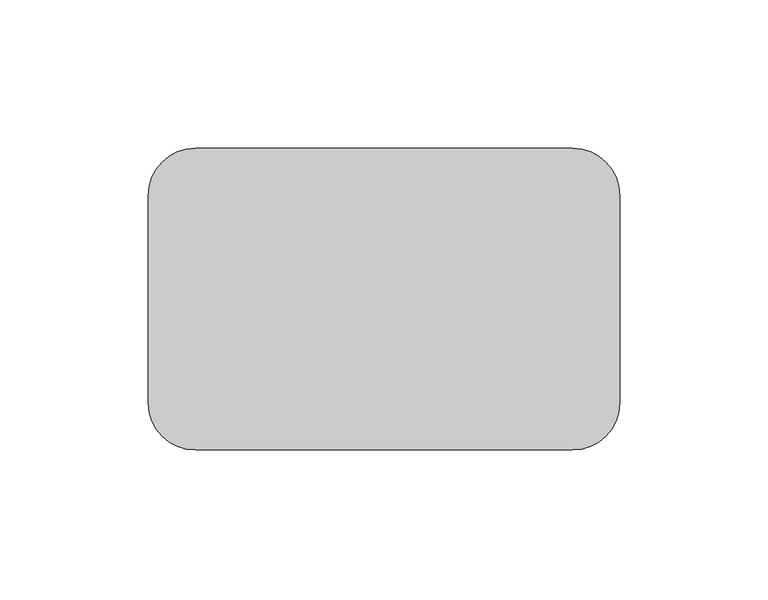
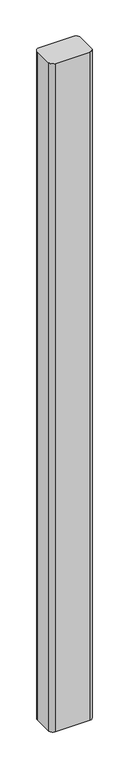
"""IFC4 building model written with IfcOpenShell, lengths in millimetres: proxy geometry, GROUTED CMU CELLS : GROUTED CMU CELLS."""

from ifc_helpers import new_model, si_unit, point, frame_2d, origin, origin_with_axes, place, context, project, spatial, polyline, circle_curve, trimmed, segment, composite_curve, outline, extrude, source, transform, mapped, element, save


def generic_models_3984bc5b(model_context):
    return source(origin(), model_context, "Body", "SweptSolid", [
        extrude(outline(composite_curve([segment(trimmed(circle_curve(frame_2d((63.5, 34.925)), 15.875), [point((63.5, 50.8))], [point((79.375, 34.925))], False, "CARTESIAN"), True, "CONTINUOUS"), segment(polyline([(79.375, 34.925), (79.375, -34.925)]), True, "CONTINUOUS"), segment(trimmed(circle_curve(frame_2d((63.5, -34.925)), 15.875), [point((79.375, -34.925))], [point((63.5, -50.8))], False, "CARTESIAN"), True, "CONTINUOUS"), segment(polyline([(63.5, -50.8), (-63.5, -50.8)]), True, "CONTINUOUS"), segment(trimmed(circle_curve(frame_2d((-63.5, -34.925)), 15.875), [point((-63.5, -50.8))], [point((-79.375, -34.925))], False, "CARTESIAN"), True, "CONTINUOUS"), segment(polyline([(-79.375, -34.925), (-79.375, 34.925)]), True, "CONTINUOUS"), segment(trimmed(circle_curve(frame_2d((-63.5, 34.925)), 15.875), [point((-79.375, 34.925))], [point((-63.5, 50.8))], False, "CARTESIAN"), True, "CONTINUOUS"), segment(polyline([(-63.5, 50.8), (63.5, 50.8)]), True, "CONTINUOUS")], self_intersect=False)), origin_with_axes(), (0.0, 0.0, 1.0), 2603.5),
    ])


if __name__ == "__main__":
    model = new_model("IFC4")
    model_context = context("Model", 3, world=origin())
    ifc_project = project(units=[si_unit("LENGTHUNIT", "METRE", prefix="MILLI")], contexts=[model_context])
    site = spatial("IfcSite", under=ifc_project)
    building = spatial("IfcBuilding", under=site)
    placement = place(None, origin())
    generic_models_shape = generic_models_3984bc5b(model_context)
    element("IfcBuildingElementProxy", 1, Name="GROUTED CMU CELLS : GROUTED CMU CELLS", ObjectType="GROUTED CMU CELLS : GROUTED CMU CELLS", at=placement, inside=building, context=model_context, shape_type="MappedRepresentation", body=[
        mapped(generic_models_shape, transform((0.0, 0.0, 0.0), x_axis=(1.0, 0.0, 0.0), y_axis=(0.0, 1.0, 0.0), z_axis=(0.0, 0.0, 1.0))),
    ])
    save(model, "model.ifc")
